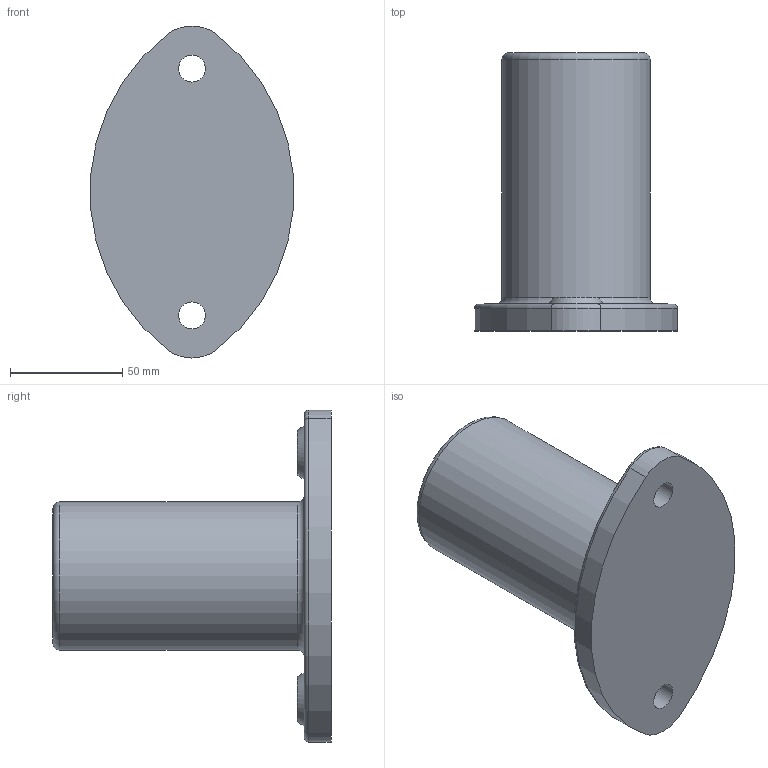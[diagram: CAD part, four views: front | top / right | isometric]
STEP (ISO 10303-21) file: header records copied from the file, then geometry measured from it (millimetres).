
FILE_DESCRIPTION(/* description */ ('FRP HANDRAIL FITTING'),/* implementation_level */ '2;1');
FILE_NAME(/* name */ 'MH1-2 Stanchion Mount.stp',/* time_stamp */ '2026-03-24T08:22:19+10:00',/* author */ ('CoreyTinney'),/* organization */ (''),/* preprocessor_version */ 'ST-DEVELOPER v20.1',/* originating_system */ 'Autodesk Inventor 2026',/* authorisation */ '');
FILE_SCHEMA (('AUTOMOTIVE_DESIGN { 1 0 10303 214 3 1 1 }'));
Length unit declared in the file: millimetre
Products named in the file (1): MH1-2 Stanchion Mount
Bounding box: 90.39 x 124 x 148 mm (x, y, z)
Volume: 281473.2 mm3; surface area: 65256 mm2
Topology: 1 solids, 1 shells, 22 faces, 44 edges, 28 vertices
Faces by surface type: cylinder 8, torus 6, plane 6, cone 2
Full cylindrical faces by diameter (mm): 12 x2, 50 x1, 66 x1
Entity records: 641 total; most frequent: DIRECTION 124, CARTESIAN_POINT 95, ORIENTED_EDGE 88, AXIS2_PLACEMENT_3D 57, EDGE_CURVE 44, CIRCLE 34, EDGE_LOOP 30, VERTEX_POINT 28
